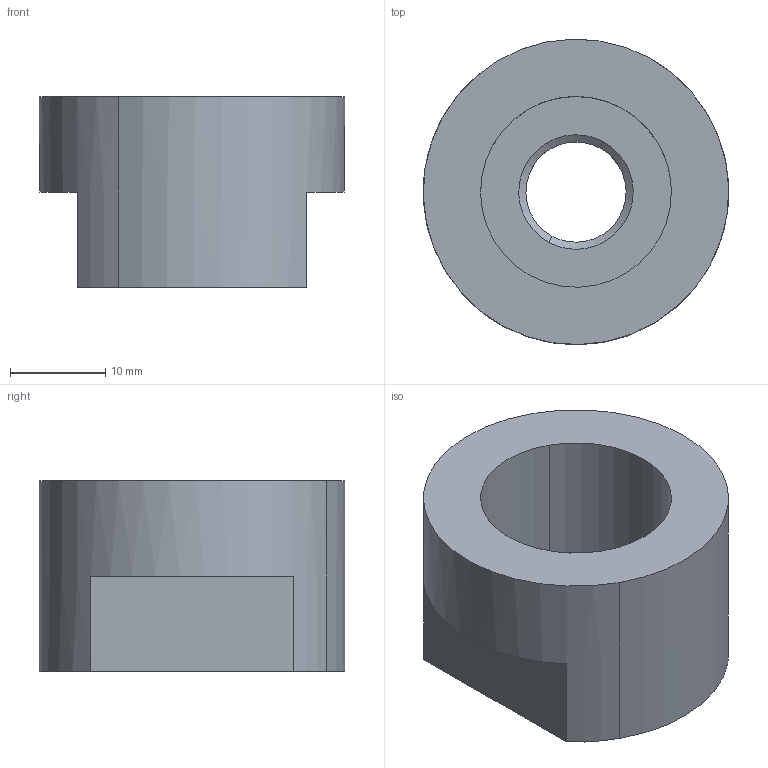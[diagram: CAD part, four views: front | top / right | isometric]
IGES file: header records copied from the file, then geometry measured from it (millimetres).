
Start section: START RECORD GO HERE.
Global section: file name: R8_DrawBar_Nut.igs; native system: IBM CATIA IGES - CATIA Version 5 Release 18 ; preprocessor: CATIA Version 5 Release 18 ; author: Barry; organization: win764bit; date: 20170723.073449; units: millimetre
Bounding box: 31.99 x 32 x 20 mm (x, y, z)
Surface area: 4527.5 mm2 (no closed solid volume)
Topology: 0 solids, 0 shells, 27 faces, 116 edges, 116 vertices
Faces by surface type: revolution 20, plane 7
